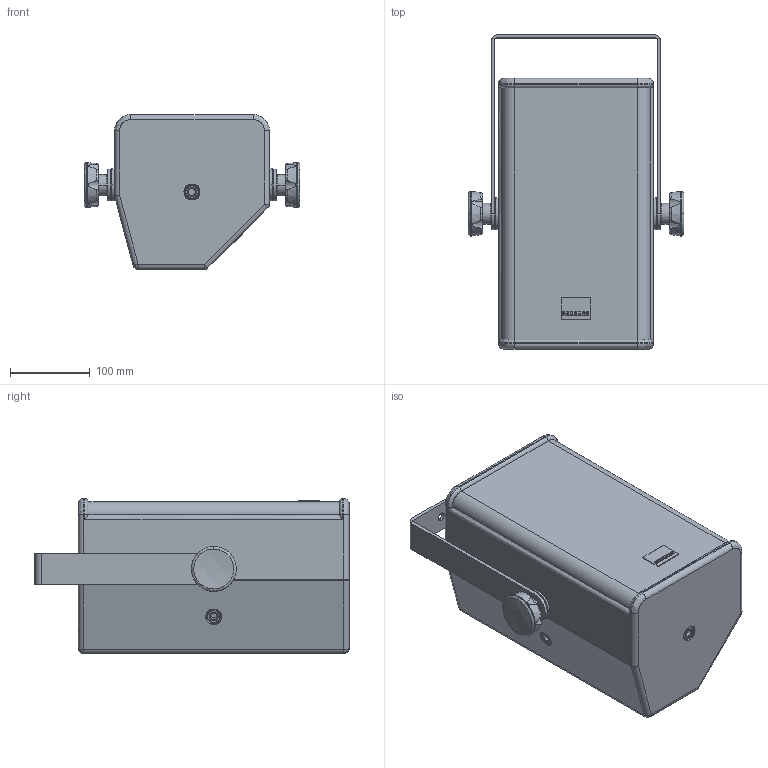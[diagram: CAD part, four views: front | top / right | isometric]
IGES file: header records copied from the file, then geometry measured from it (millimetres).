
Start section: SolidWorks IGES file using analytic representation for surfaces
Global section: file name: C:\Dokumente und Einstellungen\PC_Fabian\Desktop\TS-Serie\Seeburg_TSNano_Bracket_ver.IGS; native system: SolidWorks 2009; preprocessor: SolidWorks 2009; author: PC_Fabian; date: 121017.140203; units: millimetre
Bounding box: 270 x 393.5 x 194 mm (x, y, z)
Surface area: 743442.5 mm2 (no closed solid volume)
Topology: 0 solids, 0 shells, 499 faces, 7021 edges, 7019 vertices
Faces by surface type: revolution 287, bspline 212
